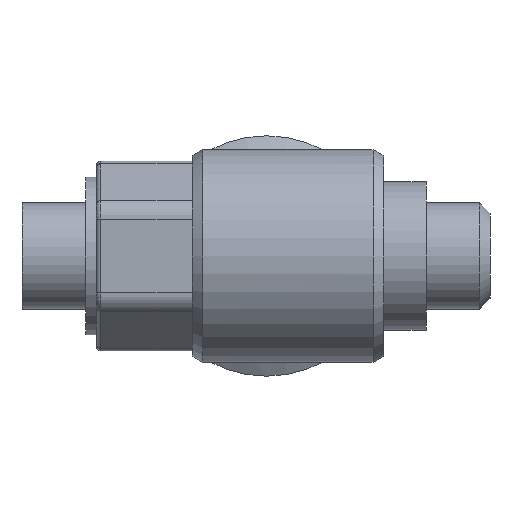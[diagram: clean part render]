
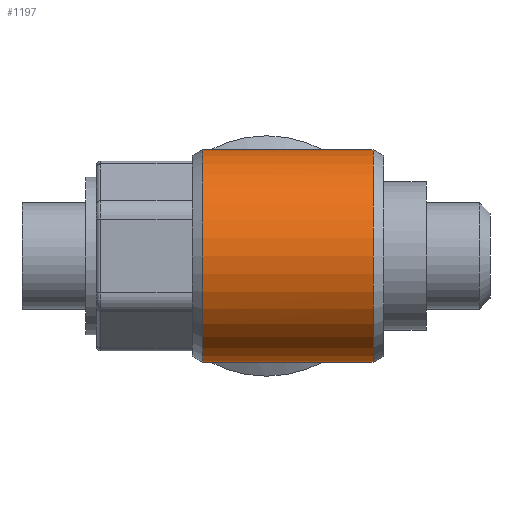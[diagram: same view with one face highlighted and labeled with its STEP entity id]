
A CAD part, left-side view. The second image highlights one B-rep face of the part: STEP entity #1197.
In plain terms, the highlighted cylindrical face has radius 5 mm (diameter 10 mm), a full revolution.
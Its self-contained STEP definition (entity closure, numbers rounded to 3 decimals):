
#1134=CARTESIAN_POINT('',(0.0,-4.0,0.0));
#1135=DIRECTION('',(0.0,-1.0,0.0));
#1136=DIRECTION('',(1.0,0.0,0.0));
#1137=AXIS2_PLACEMENT_3D('',#1134,#1135,#1136);
#1138=CYLINDRICAL_SURFACE('',#1137,5.0);
#1139=CARTESIAN_POINT('',(5.0,-5.0,0.0));
#1140=VERTEX_POINT('',#1139);
#1141=CARTESIAN_POINT('',(0.0,-5.0,0.0));
#1142=DIRECTION('',(0.0,-1.0,0.0));
#1143=DIRECTION('',(1.0,0.0,0.0));
#1144=AXIS2_PLACEMENT_3D('',#1141,#1142,#1143);
#1145=CIRCLE('',#1144,5.0);
#1146=EDGE_CURVE('',#1140,#1140,#1145,.T.);
#1147=ORIENTED_EDGE('',*,*,#1146,.F.);
#1148=EDGE_LOOP('',(#1147));
#1149=FACE_OUTER_BOUND('',#1148,.T.);
#1150=CARTESIAN_POINT('',(4.664,3.0,1.803));
#1151=VERTEX_POINT('',#1150);
#1152=CARTESIAN_POINT('',(4.664,3.0,-1.803));
#1153=VERTEX_POINT('',#1152);
#1154=CARTESIAN_POINT('',(4.664,3.0,1.803));
#1155=CARTESIAN_POINT('',(4.566,2.848,2.055));
#1156=CARTESIAN_POINT('',(4.455,2.668,2.282));
#1157=CARTESIAN_POINT('',(4.171,2.171,2.779));
#1158=CARTESIAN_POINT('',(3.974,1.789,3.044));
#1159=CARTESIAN_POINT('',(3.67,0.936,3.404));
#1160=CARTESIAN_POINT('',(3.571,0.464,3.5));
#1161=CARTESIAN_POINT('',(3.571,0.0,3.5));
#1162=CARTESIAN_POINT('',(3.571,-0.464,3.5));
#1163=CARTESIAN_POINT('',(3.67,-0.936,3.404));
#1164=CARTESIAN_POINT('',(3.974,-1.789,3.044));
#1165=CARTESIAN_POINT('',(4.171,-2.171,2.779));
#1166=CARTESIAN_POINT('',(4.515,-2.775,2.175));
#1167=CARTESIAN_POINT('',(4.689,-3.042,1.792));
#1168=CARTESIAN_POINT('',(4.932,-3.405,0.934));
#1169=CARTESIAN_POINT('',(5.0,-3.5,0.457));
#1170=CARTESIAN_POINT('',(5.0,-3.5,-0.457));
#1171=CARTESIAN_POINT('',(4.932,-3.405,-0.934));
#1172=CARTESIAN_POINT('',(4.689,-3.042,-1.792));
#1173=CARTESIAN_POINT('',(4.515,-2.775,-2.175));
#1174=CARTESIAN_POINT('',(4.171,-2.171,-2.779));
#1175=CARTESIAN_POINT('',(3.974,-1.789,-3.044));
#1176=CARTESIAN_POINT('',(3.67,-0.936,-3.404));
#1177=CARTESIAN_POINT('',(3.571,-0.464,-3.5));
#1178=CARTESIAN_POINT('',(3.571,0.464,-3.5));
#1179=CARTESIAN_POINT('',(3.67,0.936,-3.404));
#1180=CARTESIAN_POINT('',(3.974,1.789,-3.044));
#1181=CARTESIAN_POINT('',(4.171,2.171,-2.779));
#1182=CARTESIAN_POINT('',(4.455,2.668,-2.282));
#1183=CARTESIAN_POINT('',(4.566,2.848,-2.055));
#1184=CARTESIAN_POINT('',(4.664,3.0,-1.803));
#1185=B_SPLINE_CURVE_WITH_KNOTS('',3,(#1154,#1155,#1156,#1157,#1158,#1159,#1160,#1161,#1162,#1163,#1164,#1165,#1166,#1167,#1168,#1169,#1170,#1171,#1172,#1173,#1174,#1175,#1176,#1177,#1178,#1179,#1180,#1181,#1182,#1183,#1184),.UNSPECIFIED.,.F.,.U.,(4,2,2,3,2,2,2,2,2,2,2,2,2,2,4),(-0.367,-0.278,-0.139,0.0,0.139,0.278,0.415,0.552,0.69,0.827,0.966,1.105,1.244,1.383,1.471),.UNSPECIFIED.);
#1186=EDGE_CURVE('',#1151,#1153,#1185,.T.);
#1187=ORIENTED_EDGE('',*,*,#1186,.F.);
#1188=CARTESIAN_POINT('',(0.0,3.0,0.0));
#1189=DIRECTION('',(0.0,-1.0,0.0));
#1190=DIRECTION('',(1.0,0.0,0.0));
#1191=AXIS2_PLACEMENT_3D('',#1188,#1189,#1190);
#1192=CIRCLE('',#1191,5.0);
#1193=EDGE_CURVE('',#1151,#1153,#1192,.T.);
#1194=ORIENTED_EDGE('',*,*,#1193,.T.);
#1195=EDGE_LOOP('',(#1187,#1194));
#1196=FACE_BOUND('',#1195,.T.);
#1197=ADVANCED_FACE('',(#1149,#1196),#1138,.T.);
